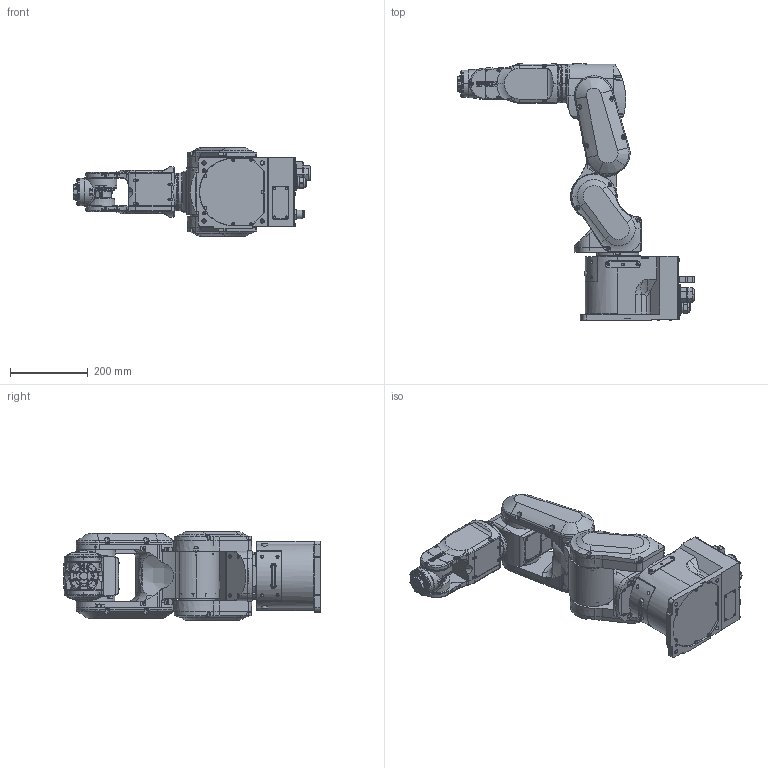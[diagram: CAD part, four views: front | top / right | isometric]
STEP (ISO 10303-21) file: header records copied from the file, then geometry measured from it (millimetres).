
FILE_DESCRIPTION (( 'STEP AP214' ), '1' );
FILE_NAME ('CX4-x601CN.STEP', '2026-07-23T21:29:57', ( '' ), ( '' ), 'SwSTEP 2.0', 'SolidWorks 2020', '' );
FILE_SCHEMA (( 'AUTOMOTIVE_DESIGN' ));
Length unit declared in the file: millimetre
Products named in the file (8): CX4-A601C-NIW_J2; CX4-x601CN; CX4-A601C-NIW_J1; CX4-A601C-NIW_BASE; CX4-A601C-NIW_J4; CX4-A601C-NIW_J6; CX4-A601C-NIW_J5; CX4-A601C-NIW_J3
Assembly tree (7 placements, depth 2):
  CX4-x601CN
    CX4-A601C-NIW_BASE
    CX4-A601C-NIW_J1
    CX4-A601C-NIW_J2
    CX4-A601C-NIW_J3
    CX4-A601C-NIW_J4
    CX4-A601C-NIW_J5
    CX4-A601C-NIW_J6
Bounding box: 613 x 662 x 228 mm (x, y, z)
Volume: 9065135 mm3; surface area: 1004395.6 mm2
Topology: 5 solids, 8 shells, 3342 faces, 8453 edges, 5268 vertices
Faces by surface type: plane 1160, cylinder 1131, cone 628, torus 291, sphere 90, bspline 42
Entity records: 153147 total; most frequent: CARTESIAN_POINT 62383, ORIENTED_EDGE 16604, DIRECTION 13172, EDGE_CURVE 8309, AXIS2_PLACEMENT_3D 5462, VERTEX_POINT 5268, B_SPLINE_CURVE_WITH_KNOTS 3893, EDGE_LOOP 3652
